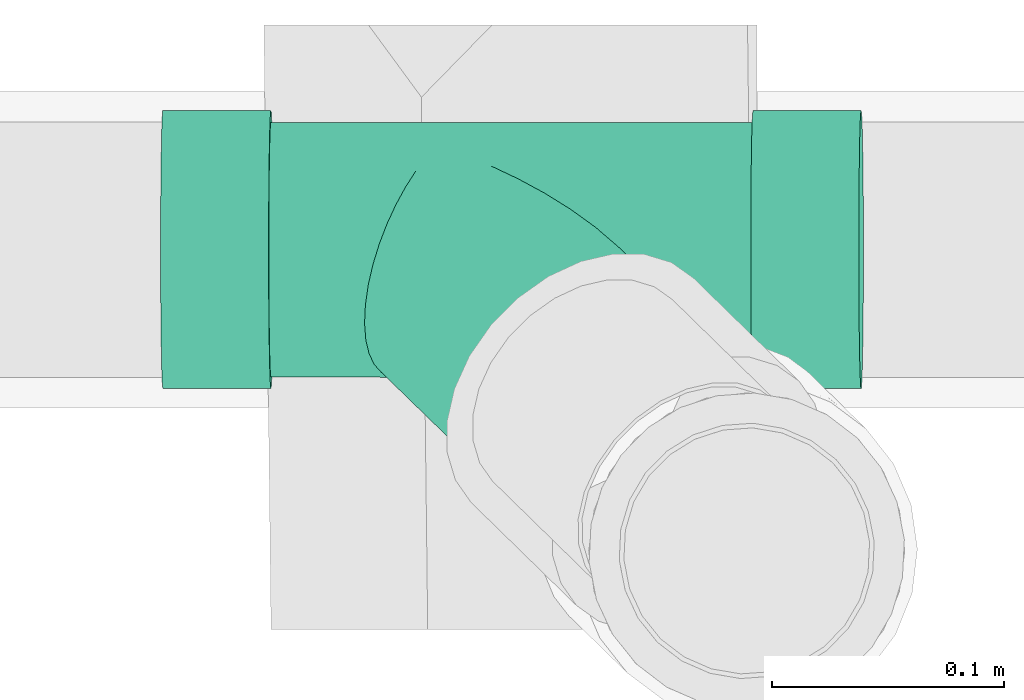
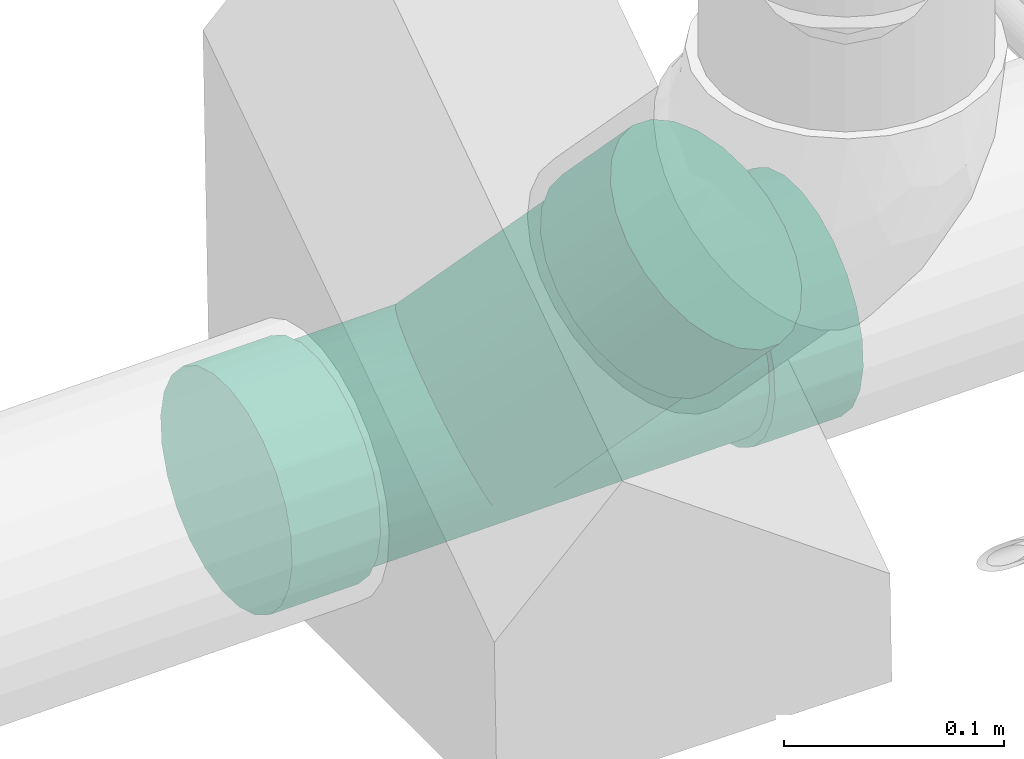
# One storey, part 122 of 156: 1 flow fitting.
"""IFC2X3 building model written with IfcOpenShell, lengths in millimetres."""

from ifc_helpers import new_model, entity, si_unit, converted_unit, derived_unit, direction, frame, origin_with_axes, place, context, subcontext, project, spatial, open_shell, surface_model, source, transform, mapped, type_object, element, save


model = new_model("IFC2X3")

# Units and contexts
model_context = context("Model", 3, precision=0.01, world=frame((0.0, 4.29681676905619e-09, 0.0)), true_north=direction((4.01073788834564e-13, 1.0)))
plan_context = context("Plan", 3, precision=0.01, world=frame((0.0, 4.29681676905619e-09, 0.0)), true_north=direction((4.01073788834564e-13, 1.0)))
body_context = subcontext(model_context, "Body", "Model", "MODEL_VIEW")
ifc_project = project(units=[converted_unit("PLANEANGLEUNIT", "DEGREE", entity("IfcPositiveLengthMeasure", 0.0174532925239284), si_unit("PLANEANGLEUNIT", "RADIAN"), dimensions=[0, 0, 0, 0, 0, 0, 0]), si_unit("AREAUNIT", "SQUARE_METRE"), si_unit("LENGTHUNIT", "METRE", prefix="MILLI"), si_unit("MASSUNIT", "GRAM", prefix="KILO"), si_unit("POWERUNIT", "WATT"), si_unit("PRESSUREUNIT", "PASCAL", prefix="KILO"), si_unit("FORCEUNIT", "NEWTON", prefix="KILO"), si_unit("ELECTRICVOLTAGEUNIT", "VOLT"), si_unit("ELECTRICCURRENTUNIT", "AMPERE"), si_unit("THERMODYNAMICTEMPERATUREUNIT", "DEGREE_CELSIUS"), si_unit("TIMEUNIT", "SECOND"), si_unit("VOLUMEUNIT", "CUBIC_METRE"), derived_unit("LINEARVELOCITYUNIT", [(si_unit("LENGTHUNIT", "METRE"), 1), (si_unit("TIMEUNIT", "SECOND"), -1)]), derived_unit("VOLUMETRICFLOWRATEUNIT", [(si_unit("VOLUMEUNIT", "CUBIC_METRE"), 1), (si_unit("TIMEUNIT", "SECOND"), -1)]), derived_unit("THERMALTRANSMITTANCEUNIT", [(si_unit("POWERUNIT", "WATT"), 1), (si_unit("THERMODYNAMICTEMPERATUREUNIT", "KELVIN"), -1), (si_unit("AREAUNIT", "SQUARE_METRE"), -1)]), derived_unit("SOUNDPRESSUREUNIT", [(si_unit("PRESSUREUNIT", "PASCAL"), 1)])], contexts=[model_context, plan_context])

# Site, building, storey
site_placement = place(None, frame((0.0, -4.29681676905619e-09, 0.0), z_axis=(0.0, 0.0, 1.0), x_axis=(1.0, 0.0, 0.0)))
site = spatial("IfcSite", under=ifc_project, at=site_placement, CompositionType="ELEMENT")
building_placement = place(site_placement, frame((0.0, 4.29681676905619e-09, 0.0), z_axis=(0.0, 0.0, 1.0), x_axis=(1.0, 0.0, 0.0)))
building = spatial("IfcBuilding", under=site, at=building_placement, Name="mc-building", CompositionType="ELEMENT")
storey_placement = place(building_placement, frame((0.0, 0.0, 205200.0), z_axis=(0.0, 0.0, 1.0), x_axis=(1.0, 0.0, 0.0)))
storey = spatial("IfcBuildingStorey", under=building, at=storey_placement, Name="Nivå D + 1,2 m", CompositionType="ELEMENT", Elevation=205200.0)

# Flow fitting
pipe_fitting_type = type_object("IfcPipeFittingType", Name="magi_sewer_tee_wye_NOR", PredefinedType="JUNCTION")
shared_shape = source(origin_with_axes(), body_context, "Body", "SurfaceModel", [
    surface_model("IfcShellBasedSurfaceModel", [(181.98422, 30.0, -51.96152), (181.98422, -42.42641, -42.42641), (181.98422, 15.52914, -57.95555), (181.98422, 51.96152, -30.0), (181.98422, 42.42641, -42.42641), (181.98422, 57.95555, -15.52914), (181.98422, 60.0, 0.0), (181.98422, 0.0, -60.0), (181.98422, -30.0, -51.96152), (181.98422, -15.52914, -57.95555), (181.98422, 57.95555, 15.52914), (181.98422, -51.96152, -30.0), (181.98422, -60.0, 0.0), (181.98422, -57.95555, -15.52914), (181.98422, 51.96152, 30.0), (181.98422, 42.42641, 42.42641), (181.98422, 15.52914, 57.95555), (181.98422, 0.0, 60.0), (181.98422, 30.0, 51.96152), (181.98422, -51.96152, 30.0), (181.98422, -57.95555, 15.52914), (181.98422, -30.0, 51.96152), (181.98422, -42.42641, 42.42641), (181.98422, -15.52914, 57.95555), (135.48422, 42.42641, 42.42641), (135.48422, 0.0, 60.0), (135.48422, 15.52914, 57.95555), (135.48422, 30.0, 51.96152), (135.48422, 51.96152, 30.0), (135.48422, 57.95555, 15.52914), (135.48422, -60.0, 0.0), (135.48422, -30.0, 51.96152), (135.48422, -51.96152, 30.0), (135.48422, -42.42641, 42.42641), (135.48422, -15.52914, 57.95555), (135.48422, -57.95555, 15.52914), (135.48422, -51.96152, -30.0), (135.48422, -42.42641, -42.42641), (135.48422, 57.95555, -15.52914), (135.48422, 42.42641, -42.42641), (135.48422, 51.96152, -30.0), (135.48422, 30.0, -51.96152), (135.48422, 15.52914, -57.95555), (135.48422, -57.95555, -15.52914), (135.48422, -30.0, -51.96152), (135.48422, 0.0, -60.0), (135.48422, -15.52914, -57.95555), (135.48422, 60.0, 0.0), (89.09287, -89.33006, -51.96152), (76.71083, -96.81944, -57.95555), (63.42326, -104.85652, -60.0), (18.96219, -131.74913, -30.0), (113.01314, -74.86171, -15.52914), (107.88433, -77.9639, -30.0), (99.72557, -82.89879, -42.42641), (113.01314, -74.86171, 15.52914), (27.12095, -126.81425, -42.42641), (37.75365, -120.38298, -51.96152), (50.13569, -112.89361, -57.95555), (13.83338, -134.85133, -15.52914), (12.08403, -135.90944, 0.0), (13.83338, -134.85133, 15.52914), (18.96219, -131.74913, 30.0), (107.88433, -77.9639, 30.0), (63.42326, -104.85652, 60.0), (89.09287, -89.33006, 51.96152), (99.72557, -82.89879, 42.42641), (76.71083, -96.81944, 57.95555), (27.12095, -126.81425, 42.42641), (50.13569, -112.89361, 57.95555), (37.75365, -120.38298, 51.96152), (114.76249, -73.8036, 0.0), (87.48927, -144.64442, -60.0), (100.77684, -136.60733, -57.95555), (113.15889, -129.11796, -51.96152), (61.81966, -160.17087, -51.96152), (131.95035, -117.75181, -30.0), (137.07916, -114.64961, -15.52914), (123.79159, -122.68669, -42.42641), (37.89939, -174.63923, -15.52914), (51.18696, -166.60215, -42.42641), (74.2017, -152.68151, -57.95555), (43.0282, -171.53704, -30.0), (36.15005, -175.69734, 0.0), (138.8285, -113.5915, 0.0), (137.07916, -114.64961, 15.52914), (131.95035, -117.75181, 30.0), (113.15889, -129.11796, 51.96152), (87.48927, -144.64442, 60.0), (123.79159, -122.68669, 42.42641), (100.77684, -136.60733, 57.95555), (43.0282, -171.53704, 30.0), (61.81966, -160.17087, 51.96152), (51.18696, -166.60215, 42.42641), (37.89939, -174.63923, 15.52914), (74.2017, -152.68151, 57.95555), (-118.56096, -30.0, -51.96152), (-118.56096, 42.42641, -42.42641), (-118.56096, -15.52914, -57.95555), (-118.56096, -51.96152, -30.0), (-118.56096, -42.42641, -42.42641), (-118.56096, -57.95555, -15.52914), (-118.56096, -60.0, 0.0), (-118.56096, 0.0, -60.0), (-118.56096, 30.0, -51.96152), (-118.56096, 15.52914, -57.95555), (-118.56096, -57.95555, 15.52914), (-118.56096, 51.96152, -30.0), (-118.56096, 60.0, 0.0), (-118.56096, 57.95555, -15.52914), (-118.56096, -51.96152, 30.0), (-118.56096, -42.42641, 42.42641), (-118.56096, -15.52914, 57.95555), (-118.56096, 0.0, 60.0), (-118.56096, -30.0, 51.96152), (-118.56096, 51.96152, 30.0), (-118.56096, 57.95555, 15.52914), (-118.56096, 30.0, 51.96152), (-118.56096, 42.42641, 42.42641), (-118.56096, 15.52914, 57.95555), (-72.06096, -42.42641, 42.42641), (-72.06096, 0.0, 60.0), (-72.06096, -15.52914, 57.95555), (-72.06096, -30.0, 51.96152), (-72.06096, -51.96152, 30.0), (-72.06096, -57.95555, 15.52914), (-72.06096, 60.0, 0.0), (-72.06096, 30.0, 51.96152), (-72.06096, 51.96152, 30.0), (-72.06096, 42.42641, 42.42641), (-72.06096, 15.52914, 57.95555), (-72.06096, 57.95555, 15.52914), (-72.06096, 51.96152, -30.0), (-72.06096, 42.42641, -42.42641), (-72.06096, -57.95555, -15.52914), (-72.06096, -42.42641, -42.42641), (-72.06096, -51.96152, -30.0), (-72.06096, -30.0, -51.96152), (-72.06096, -15.52914, -57.95555), (-72.06096, 57.95555, -15.52914), (-72.06096, 30.0, -51.96152), (-72.06096, 0.0, -60.0), (-72.06096, 15.52914, -57.95555), (-72.06096, -60.0, 0.0), (135.48422, 0.0, -55.0), (135.48422, 14.23505, -53.12592), (135.48422, 27.5, -47.63139), (135.48422, 38.89087, -38.89087), (135.48422, 47.63139, -27.5), (135.48422, -55.0, 0.0), (135.48422, -27.5, -47.63139), (135.48422, 53.12592, -14.23505), (135.48422, -14.23505, -53.12592), (135.48422, -47.63139, -27.5), (135.48422, -38.89087, -38.89087), (135.48422, -53.12592, -14.23505), (135.48422, -47.63139, 27.5), (135.48422, 55.0, 0.0), (135.48422, 47.63139, 27.5), (135.48422, 27.5, 47.63139), (135.48422, 38.89087, 38.89087), (135.48422, 14.23505, 53.12592), (135.48422, 0.0, 55.0), (135.48422, -53.12592, 14.23505), (135.48422, -27.5, 47.63139), (135.48422, -38.89087, 38.89087), (135.48422, -14.23505, 53.12592), (135.48422, 53.12592, 14.23505), (-72.06096, 0.0, 55.0), (-72.06096, 14.23505, 53.12592), (-72.06096, 27.5, 47.63139), (-72.06096, 47.63139, 27.5), (-72.06096, -47.63139, 27.5), (-72.06096, 38.89087, 38.89087), (-72.06096, 53.12592, -14.23505), (-72.06096, -27.5, 47.63139), (-72.06096, -14.23505, 53.12592), (-72.06096, -38.89087, 38.89087), (-72.06096, -55.0, 0.0), (-72.06096, -53.12592, 14.23505), (-72.06096, 53.12592, 14.23505), (-72.06096, 47.63139, -27.5), (-72.06096, -27.5, -47.63139), (-72.06096, 0.0, -55.0), (-72.06096, 38.89087, -38.89087), (-72.06096, 27.5, -47.63139), (-72.06096, 14.23505, -53.12592), (-72.06096, -47.63139, -27.5), (-72.06096, -38.89087, -38.89087), (-72.06096, -53.12592, -14.23505), (-72.06096, -14.23505, -53.12592), (-72.06096, 55.0, 0.0), (-72.06096, -54.06296, -7.11752), (-30.56991, -54.2174, -9.2452), (-30.79054, -54.6087, -4.6226), (-29.92237, -53.06896, -13.69534), (-27.20129, -48.24297, -26.41242), (-28.23807, -50.08175, -22.27895), (-24.45406, -43.3706, -33.82293), (-72.06096, -43.26114, -33.19544), (-21.15108, -37.51259, -40.22195), (-72.06096, -33.19544, -43.26114), (-72.06096, -50.37866, -20.86752), (96.157, -54.21711, -6.51506), (135.48422, -54.06296, -7.11752), (-17.40828, -30.87454, -45.51662), (-29.27484, -51.92053, -18.14548), (-4.54416, -8.05932, -54.40632), (-72.06096, -7.11752, -54.06296), (87.84892, -49.53268, -23.90634), (135.48422, -50.37866, -20.86752), (91.30872, -51.48345, -18.46823), (94.76851, -53.43422, -13.03011), (97.5455, -55.0, 0.0), (78.76362, -44.41003, -32.4461), (135.48422, -43.26114, -33.19544), (83.30627, -46.97136, -28.17622), (-13.33089, -23.64307, -49.65889), (-72.06096, -20.86752, -50.37866), (57.72424, -32.5472, -44.33598), (46.50522, -26.22148, -48.34702), (68.55882, -38.65617, -39.12417), (-9.0142, -15.98717, -52.62519), (0.0, 0.0, -55.0), (-31.01117, -55.0, 0.0), (23.43781, -13.21516, -53.38876), (11.73911, -6.61897, -54.60027), (35.04689, -19.76082, -51.32748), (0.0, 0.0, 55.0), (-4.54416, -8.05932, 54.40632), (-72.06096, -7.11752, 54.06296), (83.30627, -46.97136, 28.17622), (135.48422, -43.26114, 33.19544), (78.76362, -44.41003, 32.4461), (-9.0142, -15.98717, 52.62519), (-72.06096, -20.86752, 50.37866), (-13.33089, -23.64307, 49.65889), (91.30872, -51.48345, 18.46823), (94.76851, -53.43422, 13.03011), (96.157, -54.21711, 6.51506), (11.73911, -6.61897, 54.60027), (23.43781, -13.21516, 53.38876), (35.04689, -19.76082, 51.32748), (-17.40828, -30.87454, 45.51662), (-72.06096, -33.19544, 43.26114), (-21.15108, -37.51259, 40.22195), (-24.45406, -43.3706, 33.82293), (-72.06096, -43.26114, 33.19544), (-30.56991, -54.2174, 9.2452), (-72.06096, -54.06296, 7.11752), (-27.20129, -48.24297, 26.41242), (-30.79054, -54.6087, 4.6226), (-72.06096, -50.37866, 20.86752), (-28.23807, -50.08175, 22.27895), (-29.92237, -53.06896, 13.69534), (-29.27484, -51.92053, 18.14548), (135.48422, -50.37866, 20.86752), (87.84892, -49.53268, 23.90634), (135.48422, -54.06296, 7.11752), (57.72424, -32.5472, 44.33598), (68.55882, -38.65617, 39.12417), (46.50522, -26.22148, 48.34702), (104.17924, -80.20495, -27.5), (63.42326, -104.85652, -55.0), (75.60353, -97.48919, -53.12592), (86.95374, -90.62393, -47.63139), (51.24299, -112.22385, -53.12592), (96.70038, -84.7286, -38.89087), (30.14614, -124.98444, 38.89087), (16.3623, -133.3217, 0.0), (30.14614, -124.98444, -38.89087), (39.89278, -119.08911, -47.63139), (17.96587, -132.35177, -14.23505), (22.66728, -129.50808, -27.5), (108.88065, -77.36128, -14.23505), (110.48422, -76.39134, 0.0), (108.88065, -77.36128, 14.23505), (104.17924, -80.20495, 27.5), (63.42326, -104.85652, 55.0), (86.95374, -90.62393, 47.63139), (75.60353, -97.48919, 53.12592), (96.70038, -84.7286, 38.89087), (22.66728, -129.50808, 27.5), (17.96587, -132.35177, 14.23505), (51.24299, -112.22385, 53.12592), (39.89278, -119.08911, 47.63139), (100.43982, -82.46678, 33.19544), (106.52995, -78.78311, 20.86752), (106.52995, -78.78311, -20.86752), (100.43982, -82.46678, -33.19544)], [open_shell([[[0, 1, 2]], [[3, 0, 4]], [[5, 6, 0]], [[5, 0, 3]], [[1, 0, 6]], [[7, 8, 9]], [[8, 7, 1]], [[2, 1, 7]], [[1, 10, 11]], [[11, 12, 13]], [[10, 1, 6]], [[10, 14, 15]], [[12, 10, 15]], [[16, 17, 15]], [[16, 15, 18]], [[19, 15, 17]], [[12, 19, 20]], [[12, 15, 19]], [[19, 21, 22]], [[19, 17, 21]], [[23, 21, 17]], [[10, 12, 11]], [[24, 25, 26]], [[24, 26, 27]], [[24, 28, 29]], [[25, 24, 30]], [[30, 24, 29]], [[31, 32, 33]], [[31, 34, 25]], [[32, 30, 35]], [[31, 25, 32]], [[25, 30, 32]], [[29, 36, 30]], [[37, 29, 38]], [[39, 38, 40]], [[41, 42, 38]], [[41, 38, 39]], [[37, 38, 42]], [[37, 36, 29]], [[43, 30, 36]], [[44, 45, 46]], [[45, 44, 37]], [[45, 37, 42]], [[47, 38, 29]], [[43, 13, 30]], [[36, 11, 43]], [[8, 37, 44]], [[36, 37, 1]], [[9, 44, 46]], [[43, 11, 13]], [[13, 12, 30]], [[9, 8, 44]], [[1, 37, 8]], [[1, 11, 36]], [[7, 9, 46]], [[46, 45, 7]], [[2, 42, 41]], [[39, 0, 41]], [[3, 40, 38]], [[39, 40, 4]], [[5, 38, 47]], [[42, 2, 45]], [[41, 0, 2]], [[45, 2, 7]], [[39, 4, 0]], [[40, 3, 4]], [[5, 3, 38]], [[47, 6, 5]], [[29, 10, 47]], [[28, 14, 29]], [[18, 24, 27]], [[28, 24, 15]], [[16, 27, 26]], [[29, 14, 10]], [[10, 6, 47]], [[18, 27, 16]], [[15, 24, 18]], [[15, 14, 28]], [[16, 25, 17]], [[16, 26, 25]], [[23, 34, 31]], [[33, 21, 31]], [[19, 32, 35]], [[33, 32, 22]], [[20, 35, 30]], [[34, 23, 25]], [[31, 21, 23]], [[25, 23, 17]], [[33, 22, 21]], [[32, 19, 22]], [[20, 19, 35]], [[30, 12, 20]], [[48, 49, 50]], [[48, 50, 51]], [[52, 53, 54]], [[55, 48, 51]], [[55, 54, 48]], [[56, 51, 57]], [[50, 58, 57]], [[59, 60, 51]], [[50, 57, 51]], [[51, 60, 61]], [[52, 54, 55]], [[55, 51, 62]], [[55, 62, 63]], [[64, 65, 63]], [[66, 63, 65]], [[64, 67, 65]], [[68, 69, 62]], [[62, 51, 61]], [[70, 69, 68]], [[64, 62, 69]], [[62, 64, 63]], [[55, 71, 52]], [[72, 73, 74]], [[75, 72, 74]], [[76, 77, 74]], [[76, 74, 78]], [[75, 74, 77]], [[75, 79, 80]], [[75, 81, 72]], [[80, 79, 82]], [[79, 75, 83]], [[77, 83, 75]], [[77, 84, 83]], [[84, 85, 86]], [[84, 86, 87]], [[84, 87, 88]], [[87, 86, 89]], [[88, 87, 90]], [[91, 92, 93]], [[94, 83, 91]], [[91, 95, 92]], [[95, 91, 88]], [[84, 88, 91]], [[91, 83, 84]], [[94, 60, 83]], [[91, 61, 94]], [[68, 93, 92]], [[91, 93, 62]], [[70, 92, 95]], [[91, 62, 61]], [[61, 60, 94]], [[69, 88, 64]], [[69, 70, 95]], [[68, 92, 70]], [[68, 62, 93]], [[88, 69, 95]], [[65, 90, 87]], [[89, 66, 87]], [[55, 86, 85]], [[89, 86, 63]], [[71, 85, 84]], [[90, 67, 64]], [[90, 65, 67]], [[87, 66, 65]], [[89, 63, 66]], [[55, 63, 86]], [[85, 71, 55]], [[90, 64, 88]], [[77, 71, 84]], [[76, 52, 77]], [[54, 78, 74]], [[76, 78, 53]], [[48, 74, 73]], [[76, 53, 52]], [[52, 71, 77]], [[49, 72, 50]], [[49, 48, 73]], [[54, 74, 48]], [[54, 53, 78]], [[72, 49, 73]], [[57, 81, 75]], [[80, 56, 75]], [[59, 82, 79]], [[80, 82, 51]], [[60, 79, 83]], [[58, 50, 81]], [[58, 81, 57]], [[75, 56, 57]], [[80, 51, 56]], [[59, 51, 82]], [[79, 60, 59]], [[81, 50, 72]], [[96, 97, 98]], [[99, 96, 100]], [[101, 102, 96]], [[101, 96, 99]], [[97, 96, 102]], [[103, 104, 105]], [[104, 103, 97]], [[98, 97, 103]], [[97, 106, 107]], [[107, 108, 109]], [[106, 97, 102]], [[106, 110, 111]], [[108, 106, 111]], [[112, 113, 111]], [[112, 111, 114]], [[115, 111, 113]], [[108, 115, 116]], [[108, 111, 115]], [[115, 117, 118]], [[115, 113, 117]], [[119, 117, 113]], [[106, 108, 107]], [[120, 121, 122]], [[120, 122, 123]], [[120, 124, 125]], [[121, 120, 126]], [[126, 120, 125]], [[127, 128, 129]], [[127, 130, 121]], [[128, 126, 131]], [[127, 121, 128]], [[121, 126, 128]], [[125, 132, 126]], [[133, 125, 134]], [[135, 134, 136]], [[137, 138, 134]], [[137, 134, 135]], [[133, 134, 138]], [[133, 132, 125]], [[139, 126, 132]], [[140, 141, 142]], [[141, 140, 133]], [[141, 133, 138]], [[143, 134, 125]], [[139, 109, 126]], [[132, 107, 139]], [[104, 133, 140]], [[132, 133, 97]], [[105, 140, 142]], [[139, 107, 109]], [[109, 108, 126]], [[105, 104, 140]], [[97, 133, 104]], [[97, 107, 132]], [[103, 105, 142]], [[142, 141, 103]], [[98, 138, 137]], [[135, 96, 137]], [[99, 136, 134]], [[135, 136, 100]], [[101, 134, 143]], [[138, 98, 141]], [[137, 96, 98]], [[141, 98, 103]], [[135, 100, 96]], [[136, 99, 100]], [[101, 99, 134]], [[143, 102, 101]], [[125, 106, 143]], [[124, 110, 125]], [[114, 120, 123]], [[124, 120, 111]], [[112, 123, 122]], [[125, 110, 106]], [[106, 102, 143]], [[114, 123, 112]], [[111, 120, 114]], [[111, 110, 124]], [[112, 121, 113]], [[112, 122, 121]], [[119, 130, 127]], [[129, 117, 127]], [[115, 128, 131]], [[129, 128, 118]], [[116, 131, 126]], [[130, 119, 121]], [[127, 117, 119]], [[121, 119, 113]], [[129, 118, 117]], [[128, 115, 118]], [[116, 115, 131]], [[126, 108, 116]], [[144, 145, 146]], [[147, 144, 146]], [[148, 149, 150]], [[148, 150, 147]], [[148, 151, 149]], [[144, 150, 152]], [[144, 147, 150]], [[150, 153, 154]], [[153, 150, 149]], [[149, 155, 153]], [[156, 151, 157]], [[156, 157, 158]], [[159, 158, 160]], [[159, 161, 162]], [[159, 162, 158]], [[156, 158, 162]], [[149, 156, 163]], [[151, 156, 149]], [[162, 164, 165]], [[165, 156, 162]], [[164, 162, 166]], [[157, 167, 158]], [[168, 169, 170]], [[168, 170, 171]], [[168, 171, 172]], [[171, 170, 173]], [[174, 172, 171]], [[168, 175, 176]], [[168, 177, 175]], [[172, 178, 179]], [[177, 168, 172]], [[172, 174, 178]], [[174, 171, 180]], [[174, 181, 178]], [[181, 182, 178]], [[183, 184, 185]], [[181, 184, 183]], [[185, 186, 183]], [[187, 182, 188]], [[189, 178, 187]], [[182, 183, 190]], [[187, 178, 182]], [[183, 182, 181]], [[191, 174, 180]], [[192, 189, 193]], [[178, 192, 194]], [[195, 193, 189]], [[196, 197, 187]], [[198, 199, 188]], [[200, 188, 201]], [[187, 197, 202]], [[198, 196, 187]], [[200, 198, 188]], [[149, 203, 204]], [[201, 182, 205]], [[197, 206, 202]], [[207, 190, 208]], [[209, 210, 211]], [[212, 204, 203]], [[149, 213, 203]], [[211, 155, 212]], [[214, 215, 216]], [[217, 182, 218]], [[192, 193, 194]], [[150, 219, 220]], [[221, 219, 154]], [[154, 215, 221]], [[154, 219, 150]], [[215, 153, 216]], [[198, 187, 199]], [[155, 211, 210]], [[200, 201, 205]], [[205, 182, 217]], [[217, 218, 222]], [[222, 218, 190]], [[208, 183, 223]], [[212, 155, 204]], [[207, 222, 190]], [[207, 208, 223]], [[189, 206, 195]], [[183, 186, 223]], [[221, 215, 214]], [[147, 184, 181]], [[148, 181, 174]], [[145, 186, 185]], [[146, 185, 184]], [[145, 223, 186]], [[151, 174, 191]], [[153, 209, 216]], [[178, 194, 224]], [[225, 226, 152]], [[227, 225, 152]], [[152, 150, 227]], [[152, 226, 144]], [[227, 150, 220]], [[223, 144, 226]], [[209, 153, 210]], [[145, 144, 223]], [[146, 145, 185]], [[146, 184, 147]], [[148, 147, 181]], [[151, 148, 174]], [[191, 157, 151]], [[206, 189, 202]], [[158, 171, 173]], [[171, 158, 180]], [[167, 191, 180]], [[170, 160, 173]], [[168, 228, 169]], [[229, 230, 176]], [[231, 232, 233]], [[234, 229, 176]], [[234, 176, 235]], [[234, 235, 236]], [[235, 175, 236]], [[170, 169, 159]], [[230, 228, 168]], [[157, 191, 167]], [[167, 180, 158]], [[170, 159, 160]], [[159, 169, 161]], [[160, 158, 173]], [[163, 237, 238]], [[149, 239, 213]], [[240, 241, 166]], [[228, 240, 162]], [[240, 166, 162]], [[166, 241, 242]], [[164, 166, 242]], [[228, 230, 229]], [[228, 162, 161]], [[228, 161, 169]], [[243, 175, 244]], [[244, 177, 245]], [[246, 247, 172]], [[248, 179, 249]], [[243, 244, 245]], [[246, 245, 177]], [[232, 231, 156]], [[172, 250, 246]], [[246, 177, 247]], [[178, 224, 251]], [[249, 251, 248]], [[252, 253, 172]], [[254, 255, 179]], [[178, 251, 249]], [[256, 257, 237]], [[255, 252, 179]], [[258, 238, 239]], [[179, 248, 254]], [[259, 260, 165]], [[261, 259, 164]], [[259, 165, 164]], [[260, 233, 232]], [[260, 232, 165]], [[172, 253, 250]], [[261, 164, 242]], [[252, 255, 253]], [[149, 258, 239]], [[163, 256, 237]], [[257, 256, 156]], [[163, 238, 258]], [[257, 156, 231]], [[243, 236, 175]], [[262, 263, 264]], [[262, 264, 265]], [[263, 262, 266]], [[262, 265, 267]], [[268, 269, 262]], [[266, 270, 271]], [[266, 262, 270]], [[270, 272, 273]], [[272, 270, 269]], [[262, 269, 270]], [[262, 274, 275]], [[275, 276, 277]], [[278, 275, 277]], [[279, 280, 277]], [[279, 277, 281]], [[278, 277, 280]], [[282, 283, 269]], [[268, 282, 269]], [[268, 284, 285]], [[284, 268, 278]], [[275, 278, 268]], [[262, 275, 268]], [[269, 283, 248]], [[233, 281, 286]], [[248, 224, 269]], [[248, 283, 255]], [[268, 285, 243]], [[246, 282, 268]], [[255, 283, 282]], [[236, 285, 284]], [[250, 255, 282]], [[245, 246, 268]], [[250, 282, 246]], [[236, 243, 285]], [[229, 234, 284]], [[278, 228, 229]], [[236, 284, 234]], [[245, 268, 243]], [[276, 237, 287]], [[229, 284, 278]], [[279, 242, 280]], [[280, 240, 278]], [[259, 279, 281]], [[238, 276, 275]], [[286, 277, 233]], [[237, 276, 238]], [[275, 213, 238]], [[261, 242, 279]], [[241, 240, 280]], [[242, 241, 280]], [[257, 277, 287]], [[257, 287, 237]], [[260, 259, 281]], [[233, 260, 281]], [[257, 233, 277]], [[261, 279, 259]], [[278, 240, 228]], [[275, 274, 212]], [[274, 211, 212]], [[212, 213, 275]], [[288, 211, 274]], [[267, 265, 219]], [[214, 289, 267]], [[209, 288, 262]], [[227, 265, 264]], [[214, 209, 262]], [[219, 221, 267]], [[214, 267, 221]], [[227, 220, 265]], [[226, 225, 264]], [[263, 223, 226]], [[227, 264, 225]], [[219, 265, 220]], [[288, 209, 211]], [[226, 264, 263]], [[271, 217, 266]], [[266, 207, 263]], [[205, 271, 270]], [[193, 272, 269]], [[270, 273, 198]], [[272, 206, 273]], [[269, 224, 193]], [[205, 217, 271]], [[222, 207, 266]], [[217, 222, 266]], [[214, 262, 289]], [[193, 206, 272]], [[198, 200, 270]], [[196, 198, 273]], [[206, 196, 273]], [[205, 270, 200]], [[263, 207, 223]]])]),
])
flow_fitting_placement = place(storey_placement, frame((326355.67931, 462724.75736, 4191.56572000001), z_axis=(-0.00962699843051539, 0.816256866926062, 0.577608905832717), x_axis=(0.999861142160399, 3.14643345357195e-07, 0.0166642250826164)))
element("IfcFlowFitting", 1, at=flow_fitting_placement, inside=storey, type_object=pipe_fitting_type, Name="magi_sewer_tee_wye_NOR", context=body_context, shape_type="MappedRepresentation", body=[
    mapped(shared_shape, transform((0.0, 0.0, 0.0), scale=1.0)),
])

save(model, "model.ifc")
